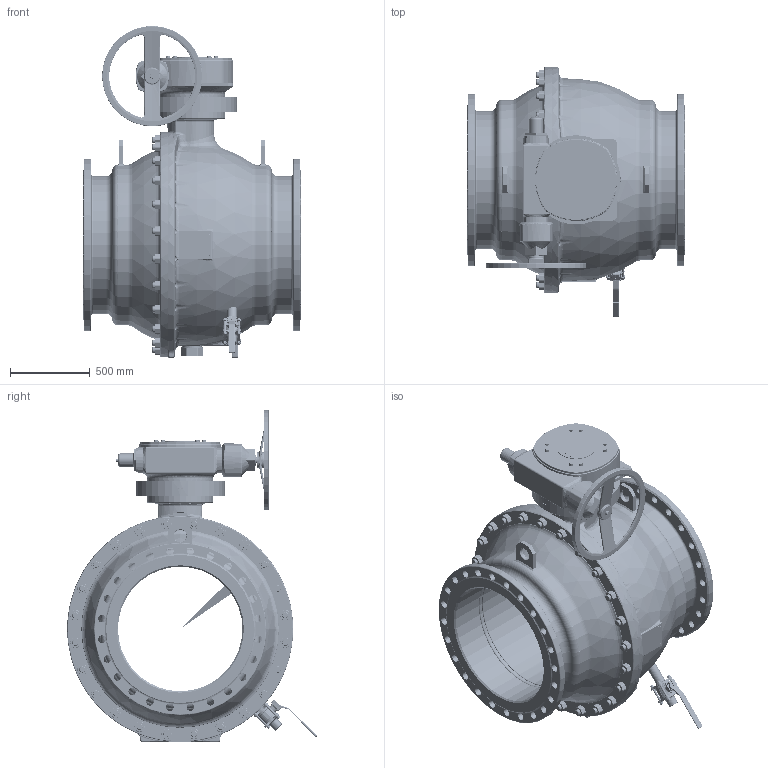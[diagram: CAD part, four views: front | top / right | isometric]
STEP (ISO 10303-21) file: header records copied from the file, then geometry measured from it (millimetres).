
FILE_DESCRIPTION((''),'2;1');
FILE_NAME('KHIFL800VFL800P025MKK_SW0001','2014-09-15T',('schwaba'),('RAND'),'PRO/ENGINEER BY PARAMETRIC TECHNOLOGY CORPORATION, 2013410','PRO/ENGINEER BY PARAMETRIC TECHNOLOGY CORPORATION, 2013410','');
FILE_SCHEMA(('CONFIG_CONTROL_DESIGN'));
Length unit declared in the file: millimetre
Products named in the file (1): KHIFL800VFL800P025MKK_SW0001
Bounding box: 1372 x 1568.47 x 2085.5 mm (x, y, z)
Volume: 564342812.2 mm3; surface area: 26691329.5 mm2
Topology: 2 solids, 19 shells, 5953 faces, 14871 edges, 9134 vertices
Faces by surface type: plane 2291, cylinder 1414, cone 788, bspline 714, torus 681, sphere 65
Entity records: 363164 total; most frequent: CARTESIAN_POINT 225725, ORIENTED_EDGE 29570, DIRECTION 27800, EDGE_CURVE 14785, AXIS2_PLACEMENT_3D 10617, VERTEX_POINT 9134, VECTOR 6566, LINE 6566
